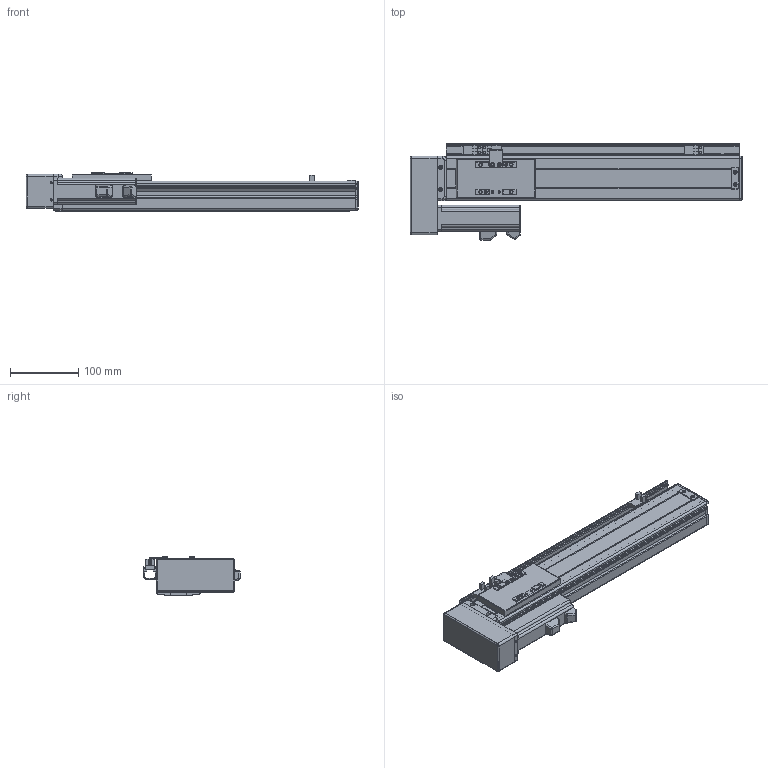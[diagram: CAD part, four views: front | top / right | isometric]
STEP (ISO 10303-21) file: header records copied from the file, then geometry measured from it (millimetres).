
FILE_DESCRIPTION (( 'STEP AP203' ), '1' );
FILE_NAME ('VT6-S280-BL.STEP', '2016-06-17T09:48:06', ( '' ), ( '' ), 'SwSTEP 2.0', 'SolidWorks 2013', '' );
FILE_SCHEMA (( 'CONFIG_CONTROL_DESIGN' ));
Length unit declared in the file: millimetre
Products named in the file (17): T6-BMRL肮祭湍謫欶; T6-覜茼え; T6-BRL萇儂假蚾啣; T6-綴傷裔; 侂狟100W MSMD012G1V; EE-XS674; VT6-S280-BL; ET6-BLRM絳寢_俴最280; ET6-BC耜啣_280; ET6-BLRM滅鳥湍_280; ET6-BC癹弇羲壽羞_280; ET6-BLRM佪裝_280; T6-賑雄殤; T6-BMLRヶ傷裔; T6-裔啣; T6-BMRLヶ傷裔揤啣; T6-揤輸
Assembly tree (19 placements, depth 2):
  VT6-S280-BL
    ET6-BC耜啣_280  x2
    ET6-BC癹弇羲壽羞_280
    T6-賑雄殤
    T6-裔啣
    T6-揤輸
    T6-覜茼え
    T6-綴傷裔
    EE-XS674  x3
    ET6-BLRM絳寢_俴最280
    ET6-BLRM滅鳥湍_280
    ET6-BLRM佪裝_280
    T6-BMLRヶ傷裔
    T6-BMRLヶ傷裔揤啣
    T6-BMRL肮祭湍謫欶
    T6-BRL萇儂假蚾啣
    侂狟100W MSMD012G1V
Bounding box: 487 x 141 x 56 mm (x, y, z)
Volume: 715663.9 mm3; surface area: 409985.6 mm2
Topology: 19 solids, 19 shells, 885 faces, 2340 edges, 1480 vertices
Faces by surface type: cylinder 411, plane 374, cone 46, torus 36, sphere 18
Entity records: 27249 total; most frequent: CARTESIAN_POINT 4585, DIRECTION 4546, ORIENTED_EDGE 4198, EDGE_CURVE 2099, AXIS2_PLACEMENT_3D 1661, VERTEX_POINT 1340, LINE 1224, VECTOR 1224
